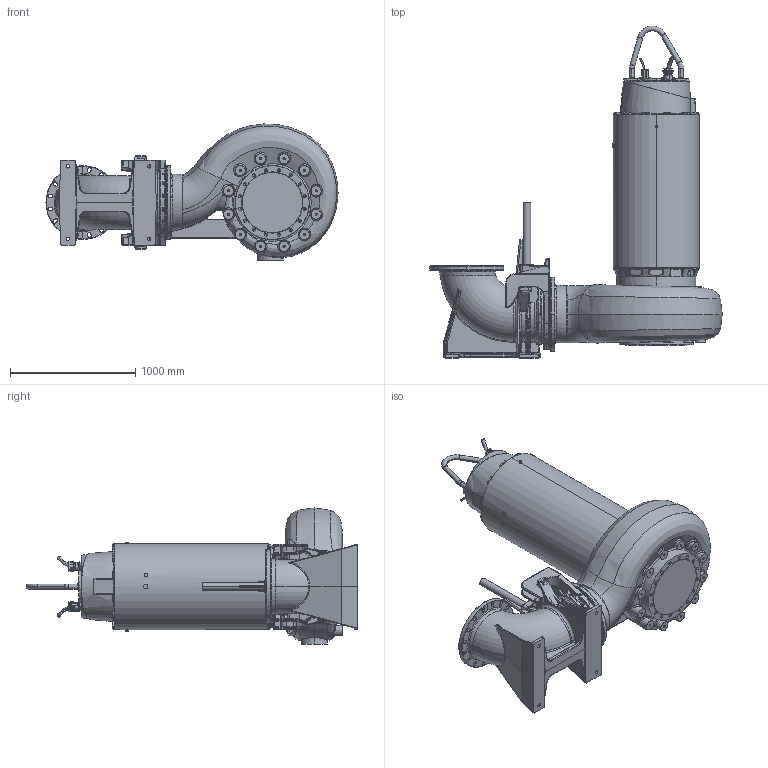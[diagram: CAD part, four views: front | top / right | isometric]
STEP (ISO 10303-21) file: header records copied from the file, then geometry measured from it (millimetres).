
FILE_DESCRIPTION (( 'STEP AP214' ), '1' );
FILE_NAME ('PE6_XFP400R-CH3_WET_C_NG2.STEP', '2017-03-28T10:50:01', ( '' ), ( '' ), 'SwSTEP 2.0', 'SolidWorks 2017', '' );
FILE_SCHEMA (( 'AUTOMOTIVE_DESIGN' ));
Length unit declared in the file: millimetre
Products named in the file (1): PE6_XFP400R-CH3_WET_C_NG2
Bounding box: 2335.14 x 2653.9 x 1088.52 mm (x, y, z)
Volume: 1172342134.6 mm3; surface area: 13461058.2 mm2
Topology: 4 solids, 20 shells, 4359 faces, 10806 edges, 6294 vertices
Faces by surface type: cylinder 1288, plane 1058, bspline 945, torus 450, cone 392, sphere 226
Entity records: 258165 total; most frequent: CARTESIAN_POINT 115673, ORIENTED_EDGE 21026, DIRECTION 18365, EDGE_CURVE 10513, AXIS2_PLACEMENT_3D 7358, VERTEX_POINT 6288, EDGE_LOOP 4625, UNCERTAINTY_MEASURE_WITH_UNIT 4365
